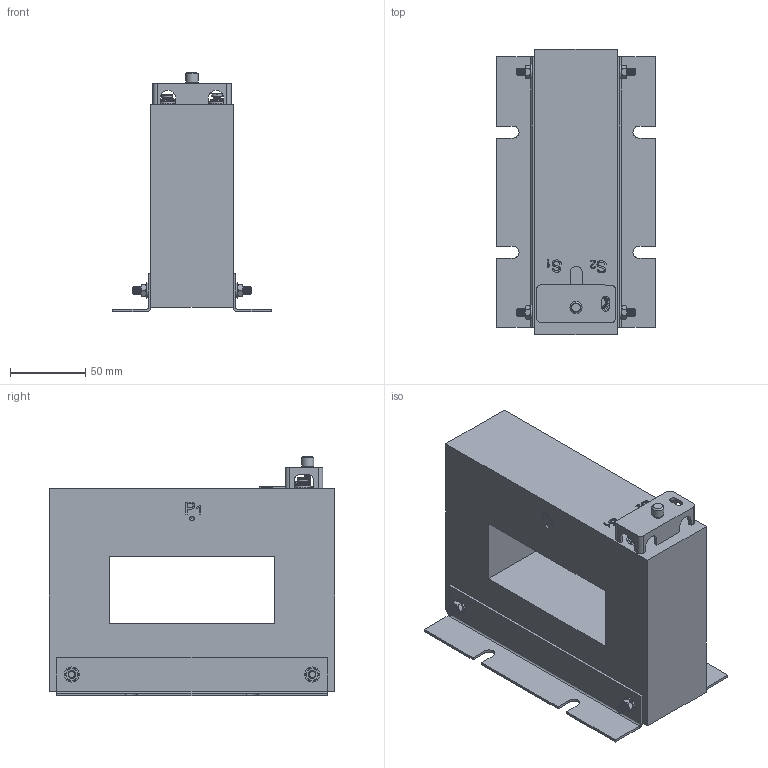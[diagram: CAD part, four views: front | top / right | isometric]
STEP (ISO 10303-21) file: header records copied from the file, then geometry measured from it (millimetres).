
FILE_DESCRIPTION(/* description */ (''),/* implementation_level */ '2;1');
FILE_NAME(/* name */ 'T:\EngMecanica\DESENHOS INVENTOR\Catalogo 2019\Arquivos STEP\KR 1145 H - 1-1.stp',/* time_stamp */ '2025-10-03T15:27:16-03:00',/* author */ ('jose.luis'),/* organization */ (''),/* preprocessor_version */ 'ST-DEVELOPER v18.1',/* originating_system */ 'Autodesk Inventor 2021',/* authorisation */ '');
FILE_SCHEMA (('AUTOMOTIVE_DESIGN { 1 0 10303 214 3 1 1 }'));
Products named in the file (1): KR 1145 H - 1-1
Bounding box: 105.8 x 190 x 159.4 mm (x, y, z)
Volume: 1175418.8 mm3; surface area: 141319.7 mm2
Topology: 30 solids, 30 shells, 636 faces, 1688 edges, 1115 vertices
Faces by surface type: cylinder 303, plane 204, cone 70, bspline 36, torus 22, sphere 1
Full cylindrical faces by diameter (mm): 3.9 x49, 4.29 x4, 4.9 x1, 5 x93, 7 x7, 8 x1, 10 x4, 11 x2, 13 x2
Entity records: 54790 total; most frequent: CARTESIAN_POINT 38982, ORIENTED_EDGE 3374, DIRECTION 2821, EDGE_CURVE 1687, VERTEX_POINT 1115, AXIS2_PLACEMENT_3D 1055, LINE 711, VECTOR 711
